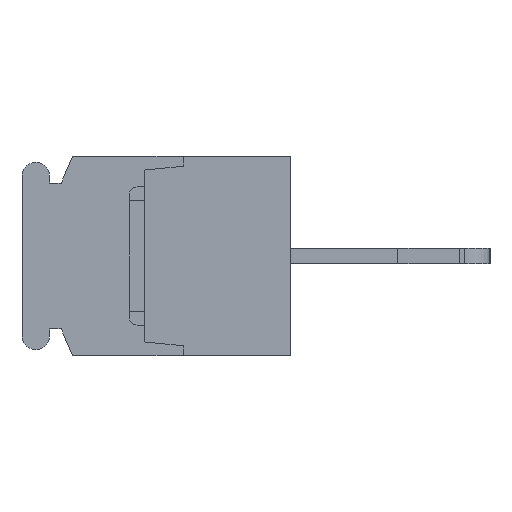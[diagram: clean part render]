
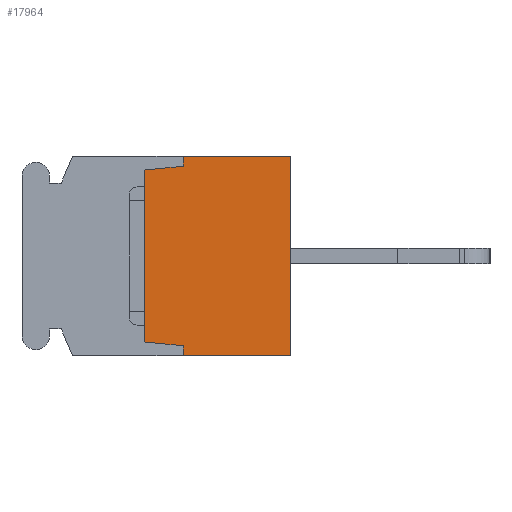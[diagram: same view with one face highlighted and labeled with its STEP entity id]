
A CAD part, left-side view. The second image highlights one B-rep face of the part: STEP entity #17964.
In plain terms, the highlighted planar face has unit normal (-1, 0, 0).
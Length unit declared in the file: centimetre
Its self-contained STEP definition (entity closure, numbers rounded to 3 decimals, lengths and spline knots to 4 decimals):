
#1520=VERTEX_POINT('',#25391);
#1521=VERTEX_POINT('',#25392);
#1522=VERTEX_POINT('',#25394);
#1523=VERTEX_POINT('',#25396);
#1524=VERTEX_POINT('',#25398);
#1525=VERTEX_POINT('',#25400);
#1526=VERTEX_POINT('',#25402);
#1527=VERTEX_POINT('',#25404);
#3470=VECTOR('',#20349,1.);
#3471=VECTOR('',#20350,1.);
#3472=VECTOR('',#20351,1.);
#3473=VECTOR('',#20352,1.);
#3474=VECTOR('',#20353,1.);
#3475=VECTOR('',#20354,1.);
#3476=VECTOR('',#20355,1.);
#3477=VECTOR('',#20356,1.);
#5534=LINE('',#25390,#3470);
#5535=LINE('',#25393,#3471);
#5536=LINE('',#25395,#3472);
#5537=LINE('',#25397,#3473);
#5538=LINE('',#25399,#3474);
#5539=LINE('',#25401,#3475);
#5540=LINE('',#25403,#3476);
#5541=LINE('',#25405,#3477);
#7730=EDGE_CURVE('',#1520,#1521,#5534,.T.);
#7731=EDGE_CURVE('',#1522,#1520,#5535,.T.);
#7732=EDGE_CURVE('',#1523,#1522,#5536,.T.);
#7733=EDGE_CURVE('',#1524,#1523,#5537,.T.);
#7734=EDGE_CURVE('',#1525,#1524,#5538,.T.);
#7735=EDGE_CURVE('',#1526,#1525,#5539,.T.);
#7736=EDGE_CURVE('',#1527,#1526,#5540,.T.);
#7737=EDGE_CURVE('',#1521,#1527,#5541,.T.);
#11152=ORIENTED_EDGE('',*,*,#7730,.F.);
#11153=ORIENTED_EDGE('',*,*,#7731,.F.);
#11154=ORIENTED_EDGE('',*,*,#7732,.F.);
#11155=ORIENTED_EDGE('',*,*,#7733,.F.);
#11156=ORIENTED_EDGE('',*,*,#7734,.F.);
#11157=ORIENTED_EDGE('',*,*,#7735,.F.);
#11158=ORIENTED_EDGE('',*,*,#7736,.F.);
#11159=ORIENTED_EDGE('',*,*,#7737,.F.);
#15665=EDGE_LOOP('',(#11152,#11153,#11154,#11155,#11156,#11157,#11158,#11159));
#16829=FACE_BOUND('',#15665,.T.);
#17964=ADVANCED_FACE('',(#16829),#18939,.F.);
#18939=PLANE('',#30640);
#20348=DIRECTION('',(1.,0.,0.));
#20349=DIRECTION('',(0.,0.,-1.));
#20350=DIRECTION('',(0.,-1.,0.));
#20351=DIRECTION('',(0.,0.,1.));
#20352=DIRECTION('',(0.,-0.995,0.1));
#20353=DIRECTION('',(0.,0.,1.));
#20354=DIRECTION('',(0.,0.995,0.1));
#20355=DIRECTION('',(0.,0.,1.));
#20356=DIRECTION('',(0.,1.,0.));
#25389=CARTESIAN_POINT('',(-1.84,0.4626,0.));
#25390=CARTESIAN_POINT('',(-1.84,0.,0.65));
#25391=CARTESIAN_POINT('',(-1.84,0.,0.65));
#25392=CARTESIAN_POINT('',(-1.84,0.,-0.65));
#25393=CARTESIAN_POINT('',(-1.84,0.7,0.65));
#25394=CARTESIAN_POINT('',(-1.84,0.7,0.65));
#25395=CARTESIAN_POINT('',(-1.84,0.7,0.585));
#25396=CARTESIAN_POINT('',(-1.84,0.7,0.585));
#25397=CARTESIAN_POINT('',(-1.84,0.95,0.56));
#25398=CARTESIAN_POINT('',(-1.84,0.95,0.56));
#25399=CARTESIAN_POINT('',(-1.84,0.95,-0.56));
#25400=CARTESIAN_POINT('',(-1.84,0.95,-0.56));
#25401=CARTESIAN_POINT('',(-1.84,0.7,-0.585));
#25402=CARTESIAN_POINT('',(-1.84,0.7,-0.585));
#25403=CARTESIAN_POINT('',(-1.84,0.7,-0.65));
#25404=CARTESIAN_POINT('',(-1.84,0.7,-0.65));
#25405=CARTESIAN_POINT('',(-1.84,0.,-0.65));
#30640=AXIS2_PLACEMENT_3D('',#25389,#20348,$);
